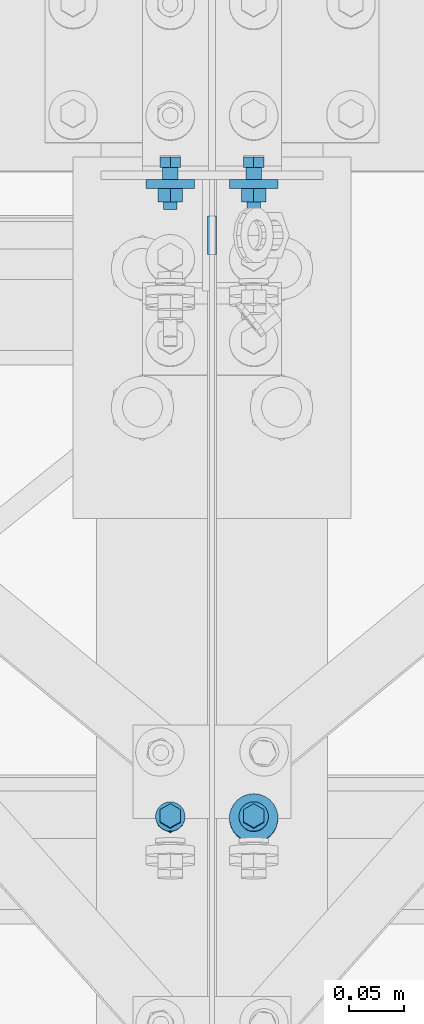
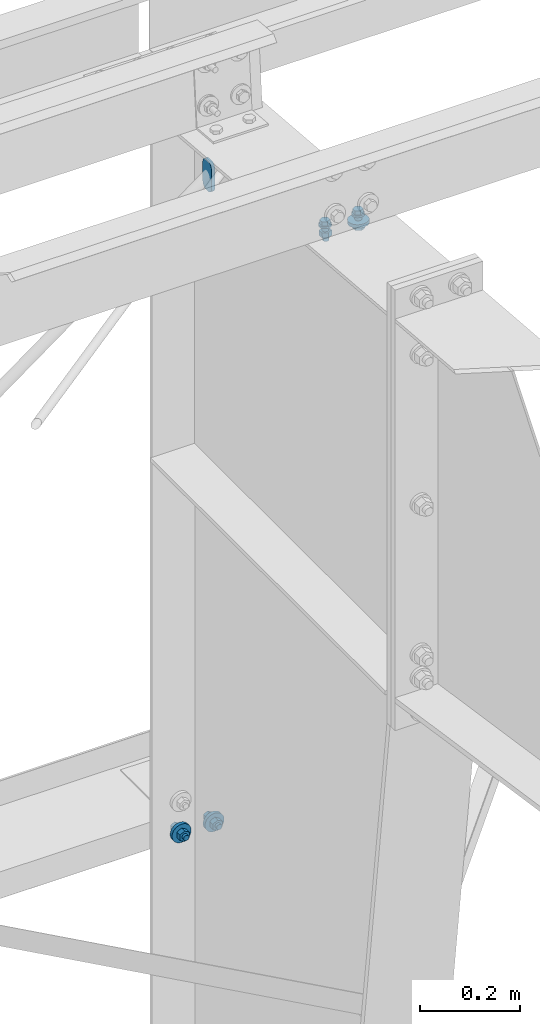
# One storey, part 179 of 185: 5 mechanical fasteners, 3 elements without a shape of their own.
"""IFC2X3 building model written with IfcOpenShell, lengths in millimetres."""

from ifc_helpers import new_model, si_unit, frame, frame_2d, origin_with_axes, origin_2d_with_axis, place, context, subcontext, project, spatial, polyline, circle_curve, parameter, trimmed, segment, composite_curve, circle, outline, extrude, source, transform, mapped, material, type_object, element, aggregate, save


model = new_model("IFC2X3")

# Units and contexts
model_context = context("Model", 3, precision=1e-05, world=origin_with_axes())
body_context = subcontext(model_context, "Body", "Model", "MODEL_VIEW")
ifc_project = project(units=[si_unit("LENGTHUNIT", "METRE", prefix="MILLI"), si_unit("AREAUNIT", "SQUARE_METRE"), si_unit("VOLUMEUNIT", "CUBIC_METRE"), si_unit("MASSUNIT", "GRAM", prefix="KILO"), si_unit("TIMEUNIT", "SECOND"), si_unit("PLANEANGLEUNIT", "RADIAN"), si_unit("SOLIDANGLEUNIT", "STERADIAN"), si_unit("THERMODYNAMICTEMPERATUREUNIT", "DEGREE_CELSIUS"), si_unit("LUMINOUSINTENSITYUNIT", "LUMEN")], contexts=[model_context])

# Site, building, storey
site_placement = place(None, origin_with_axes())
site = spatial("IfcSite", under=ifc_project, at=site_placement, Name="Undefined", CompositionType="ELEMENT")
building_placement = place(site_placement, origin_with_axes())
building = spatial("IfcBuilding", under=site, at=building_placement, Name="Undefined", CompositionType="ELEMENT")
storey_placement = place(building_placement, origin_with_axes())
storey = spatial("IfcBuildingStorey", under=building, at=storey_placement, Name="Undefined", CompositionType="ELEMENT", Elevation=0.0)

# Assembly, mechanical fasteners
assembly_1_placement = place(storey_placement, origin_with_axes())
assembly_1 = element("IfcElementAssembly", 1, at=assembly_1_placement, inside=storey, Name="Steel Assembly", AssemblyPlace="NOTDEFINED", PredefinedType="RIGID_FRAME")
ifc_material = material(Name="Undefined")
discrete_accessory_type = type_object("IfcDiscreteAccessoryType", Name="Bolt assembly")
shared_shape_1 = source(origin_with_axes(), body_context, "Body", "SweptSolid", [
    extrude(circle(Radius=7.14374971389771, at=origin_2d_with_axis()), frame((0.0, -3.08000006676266, 0.0), z_axis=(0.0, 1.0, 0.0), x_axis=(1.0, 0.0, 0.0)), (0.0, 0.0, 1.0), 3.2),
    extrude(circle(Radius=7.14374971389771, at=origin_2d_with_axis()), frame((0.0, -3.08000006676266, 0.0), z_axis=(0.0, 1.0, 0.0), x_axis=(1.0, 0.0, 0.0)), (0.0, 0.0, 1.0), 3.2),
    extrude(circle(Radius=7.14374971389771, at=origin_2d_with_axis()), frame((0.0, -0.1, 0.0), z_axis=(0.0, 1.0, 0.0), x_axis=(1.0, 0.0, 0.0)), (0.0, 0.0, 1.0), 8.0),
    extrude(outline(polyline([(10.9985221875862, 0.0), (5.4992610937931, 9.52499961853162), (-5.4992610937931, 9.52499961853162), (-10.9985221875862, 0.0), (-5.4992610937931, -9.52499961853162), (5.4992610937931, -9.52499961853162), (10.9985221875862, 0.0)])), frame((0.0, -12.7050014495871, 0.0), z_axis=(0.0, 1.0, 0.0), x_axis=(1.0, 0.0, 0.0)), (0.0, 0.0, 1.0), 9.5),
    extrude(circle(Radius=6.34999990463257, at=origin_2d_with_axis()), frame((0.0, -3.18000030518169, 0.0), z_axis=(0.0, 1.0, 0.0), x_axis=(1.0, 0.0, 0.0)), (0.0, 0.0, 1.0), 38.1),
    extrude(circle(Radius=22.2250003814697, at=origin_2d_with_axis()), frame((0.0, 7.87399999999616, 0.0), z_axis=(0.0, 1.0, 0.0), x_axis=(1.0, 0.0, 0.0)), (0.0, 0.0, 1.0), 7.9),
    extrude(outline(polyline([(12.8316099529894, 0.0), (6.4158049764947, 11.1125001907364), (-6.4158049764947, 11.1125001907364), (-12.8316099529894, 0.0), (-6.4158049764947, -11.1125001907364), (6.4158049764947, -11.1125001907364), (12.8316099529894, 0.0)])), frame((0.0, 15.8114999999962, 0.0), z_axis=(0.0, 1.0, 0.0), x_axis=(1.0, 0.0, 0.0)), (0.0, 0.0, 1.0), 12.3),
])
mechanical_fastener_1_placement = place(assembly_1_placement, frame((37680.9, 31800.8, 4127.5), z_axis=(-1.0, 0.0, 0.0), x_axis=(0.0, 0.0, -1.0)))
mechanical_fastener_1 = element("IfcMechanicalFastener", 2, at=mechanical_fastener_1_placement, type_object=discrete_accessory_type, material=ifc_material, Name="Bolt assembly", NominalDiameter=12.6999998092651, NominalLength=38.0999984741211, context=body_context, shape_type="MappedRepresentation", body=[
    mapped(shared_shape_1, transform((0.0, 0.0, 0.0))),
])
mechanical_fastener_2_placement = place(assembly_1_placement, frame((37757.1, 31800.8, 4127.5), z_axis=(-1.0, 0.0, 0.0), x_axis=(0.0, 0.0, -1.0)))
mechanical_fastener_2 = element("IfcMechanicalFastener", 3, at=mechanical_fastener_2_placement, type_object=discrete_accessory_type, material=ifc_material, Name="Bolt assembly", NominalDiameter=12.6999998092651, NominalLength=38.0999984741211, context=body_context, shape_type="MappedRepresentation", body=[
    mapped(shared_shape_1, transform((0.0, 0.0, 0.0))),
])
aggregate(assembly_1, [mechanical_fastener_1, mechanical_fastener_2])

# Assembly, mechanical fastener
assembly_2_placement = place(storey_placement, origin_with_axes())
assembly_2 = element("IfcElementAssembly", 4, at=assembly_2_placement, inside=storey, Name="Steel Assembly", AssemblyPlace="NOTDEFINED", PredefinedType="RIGID_FRAME")
shared_shape_2 = source(origin_with_axes(), body_context, "Body", "SweptSolid", [
    extrude(outline(composite_curve([segment(polyline([(-23.8125, 17.4624996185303), (23.8125, 17.4624996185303)]), True, "CONTINUOUS"), segment(trimmed(circle_curve(frame_2d((23.8125, 4.76249980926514), x_axis=(0.0, 1.0)), 12.7), [parameter(0.0)], [parameter(4.71238898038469)], False, "PARAMETER"), True, "CONTINUOUS"), segment(polyline([(36.5124998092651, 4.76249980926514), (36.5124998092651, -4.76249980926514)]), True, "CONTINUOUS"), segment(trimmed(circle_curve(frame_2d((23.8125, -4.76249980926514), x_axis=(1.0, 0.0)), 12.7), [parameter(0.0)], [parameter(4.71238898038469)], False, "PARAMETER"), True, "CONTINUOUS"), segment(polyline([(23.8125, -17.4624996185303), (-23.8125, -17.4624996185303)]), True, "CONTINUOUS"), segment(trimmed(circle_curve(frame_2d((-23.8125, -4.76249980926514), x_axis=(0.0, -1.0)), 12.7), [parameter(0.0)], [parameter(4.71238898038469)], False, "PARAMETER"), True, "CONTINUOUS"), segment(polyline([(-36.5124998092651, -4.76249980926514), (-36.5124998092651, 4.76249980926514)]), True, "CONTINUOUS"), segment(trimmed(circle_curve(frame_2d((-23.8125, 4.76249980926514), x_axis=(-1.0, 0.0)), 12.7), [parameter(0.0)], [parameter(4.71238898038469)], False, "PARAMETER"), True, "DISCONTINUOUS")], self_intersect=False)), frame((0.0, -3.96874999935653, 0.0), z_axis=(0.0, 1.0, 0.0), x_axis=(1.0, 0.0, 0.0)), (0.0, 0.0, 1.0), 8.0),
])
mechanical_fastener_3_placement = place(assembly_2_placement, frame((37719.0, 31742.1260000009, 5749.33676038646), z_axis=(0.0, 1.0, 0.0), x_axis=(0.0, 0.0, -1.0)))
mechanical_fastener_3 = element("IfcMechanicalFastener", 5, at=mechanical_fastener_3_placement, type_object=discrete_accessory_type, material=ifc_material, Name="Bolt assembly", NominalDiameter=25.3999996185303, NominalLength=31.75, context=body_context, shape_type="MappedRepresentation", body=[
    mapped(shared_shape_2, transform((0.0, 0.0, 0.0))),
])
aggregate(assembly_2, [mechanical_fastener_3])

# Assembly, mechanical fasteners
assembly_3_placement = place(storey_placement, origin_with_axes())
assembly_3 = element("IfcElementAssembly", 6, at=assembly_3_placement, inside=storey, Name="Steel Assembly", AssemblyPlace="NOTDEFINED", PredefinedType="RIGID_FRAME")
shared_shape_3 = source(origin_with_axes(), body_context, "Body", "SweptSolid", [
    extrude(circle(Radius=7.14374971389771, at=origin_2d_with_axis()), frame((0.0, -0.1, 0.0), z_axis=(0.0, 1.0, 0.0), x_axis=(1.0, 0.0, 0.0)), (0.0, 0.0, 1.0), 8.1),
    extrude(circle(Radius=7.14374971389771, at=origin_2d_with_axis()), frame((0.0, -3.08000006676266, 0.0), z_axis=(0.0, 1.0, 0.0), x_axis=(1.0, 0.0, 0.0)), (0.0, 0.0, 1.0), 3.2),
    extrude(circle(Radius=7.14374971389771, at=origin_2d_with_axis()), frame((0.0, -3.08000006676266, 0.0), z_axis=(0.0, 1.0, 0.0), x_axis=(1.0, 0.0, 0.0)), (0.0, 0.0, 1.0), 3.2),
    extrude(outline(polyline([(10.9985221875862, 0.0), (5.4992610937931, 9.52499961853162), (-5.4992610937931, 9.52499961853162), (-10.9985221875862, 0.0), (-5.4992610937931, -9.52499961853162), (5.4992610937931, -9.52499961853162), (10.9985221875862, 0.0)])), frame((0.0, -16.6737496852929, 0.0), z_axis=(0.0, 1.0, 0.0), x_axis=(1.0, 0.0, 0.0)), (0.0, 0.0, 1.0), 9.5),
    extrude(circle(Radius=6.34999990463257, at=origin_2d_with_axis()), frame((0.0, -7.14875006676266, 0.0), z_axis=(0.0, 1.0, 0.0), x_axis=(1.0, 0.0, 0.0)), (0.0, 0.0, 1.0), 38.1),
    extrude(circle(Radius=13.4937496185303, at=origin_2d_with_axis()), frame((0.0, -7.14875006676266, 0.0), z_axis=(0.0, 1.0, 0.0), x_axis=(1.0, 0.0, 0.0)), (0.0, 0.0, 1.0), 4.0),
    extrude(circle(Radius=22.2250003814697, at=origin_2d_with_axis()), frame((0.0, 7.95019856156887, 0.0), z_axis=(0.0, 1.0, 0.0), x_axis=(1.0, 0.0, 0.0)), (0.0, 0.0, 1.0), 7.9),
    extrude(outline(polyline([(12.8316099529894, 0.0), (6.4158049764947, 11.1125001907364), (-6.4158049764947, 11.1125001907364), (-12.8316099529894, 0.0), (-6.4158049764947, -11.1125001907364), (6.4158049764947, -11.1125001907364), (12.8316099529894, 0.0)])), frame((0.0, 15.8876985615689, 0.0), z_axis=(0.0, 1.0, 0.0), x_axis=(1.0, 0.0, 0.0)), (0.0, 0.0, 1.0), 12.3),
])
mechanical_fastener_4_placement = place(assembly_3_placement, frame((37757.1, 31210.4504829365, 5958.22479169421), z_axis=(-1.0, 0.0, 0.0), x_axis=(0.0, 0.996545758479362, -0.0830454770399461)))
mechanical_fastener_4 = element("IfcMechanicalFastener", 7, at=mechanical_fastener_4_placement, type_object=discrete_accessory_type, material=ifc_material, Name="Bolt assembly", NominalDiameter=12.6999998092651, NominalLength=38.0999984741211, context=body_context, shape_type="MappedRepresentation", body=[
    mapped(shared_shape_3, transform((0.0, 0.0, 0.0))),
])
shared_shape_4 = source(origin_with_axes(), body_context, "Body", "SweptSolid", [
    extrude(circle(Radius=7.14374971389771, at=origin_2d_with_axis()), frame((0.0, -0.1, 0.0), z_axis=(0.0, 1.0, 0.0), x_axis=(1.0, 0.0, 0.0)), (0.0, 0.0, 1.0), 8.1),
    extrude(circle(Radius=7.14374971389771, at=origin_2d_with_axis()), frame((0.0, -3.08000006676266, 0.0), z_axis=(0.0, 1.0, 0.0), x_axis=(1.0, 0.0, 0.0)), (0.0, 0.0, 1.0), 3.2),
    extrude(circle(Radius=7.14374971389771, at=origin_2d_with_axis()), frame((0.0, -3.08000006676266, 0.0), z_axis=(0.0, 1.0, 0.0), x_axis=(1.0, 0.0, 0.0)), (0.0, 0.0, 1.0), 3.2),
    extrude(outline(polyline([(10.9985221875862, 0.0), (5.4992610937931, 9.52499961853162), (-5.4992610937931, 9.52499961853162), (-10.9985221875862, 0.0), (-5.4992610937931, -9.52499961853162), (5.4992610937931, -9.52499961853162), (10.9985221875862, 0.0)])), frame((0.0, -16.6737496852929, 0.0), z_axis=(0.0, 1.0, 0.0), x_axis=(1.0, 0.0, 0.0)), (0.0, 0.0, 1.0), 9.5),
    extrude(circle(Radius=6.34999990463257, at=origin_2d_with_axis()), frame((0.0, -7.14875006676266, 0.0), z_axis=(0.0, 1.0, 0.0), x_axis=(1.0, 0.0, 0.0)), (0.0, 0.0, 1.0), 38.1),
    extrude(circle(Radius=13.4937496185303, at=origin_2d_with_axis()), frame((0.0, -7.14875006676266, 0.0), z_axis=(0.0, 1.0, 0.0), x_axis=(1.0, 0.0, 0.0)), (0.0, 0.0, 1.0), 4.0),
    extrude(outline(polyline([(12.8316099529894, 0.0), (6.4158049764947, 11.1125001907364), (-6.4158049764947, 11.1125001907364), (-12.8316099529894, 0.0), (-6.4158049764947, -11.1125001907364), (6.4158049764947, -11.1125001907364), (12.8316099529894, 0.0)])), frame((0.0, 7.95019856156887, 0.0), z_axis=(0.0, 1.0, 0.0), x_axis=(1.0, 0.0, 0.0)), (0.0, 0.0, 1.0), 12.3),
])
mechanical_fastener_5_placement = place(assembly_3_placement, frame((37680.9, 31210.4504829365, 5958.22479169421), z_axis=(-1.0, 0.0, 0.0), x_axis=(0.0, 0.996545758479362, -0.0830454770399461)))
mechanical_fastener_5 = element("IfcMechanicalFastener", 8, at=mechanical_fastener_5_placement, type_object=discrete_accessory_type, material=ifc_material, Name="Bolt assembly", NominalDiameter=12.6999998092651, NominalLength=38.0999984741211, context=body_context, shape_type="MappedRepresentation", body=[
    mapped(shared_shape_4, transform((0.0, 0.0, 0.0))),
])
aggregate(assembly_3, [mechanical_fastener_4, mechanical_fastener_5])

save(model, "model.ifc")
